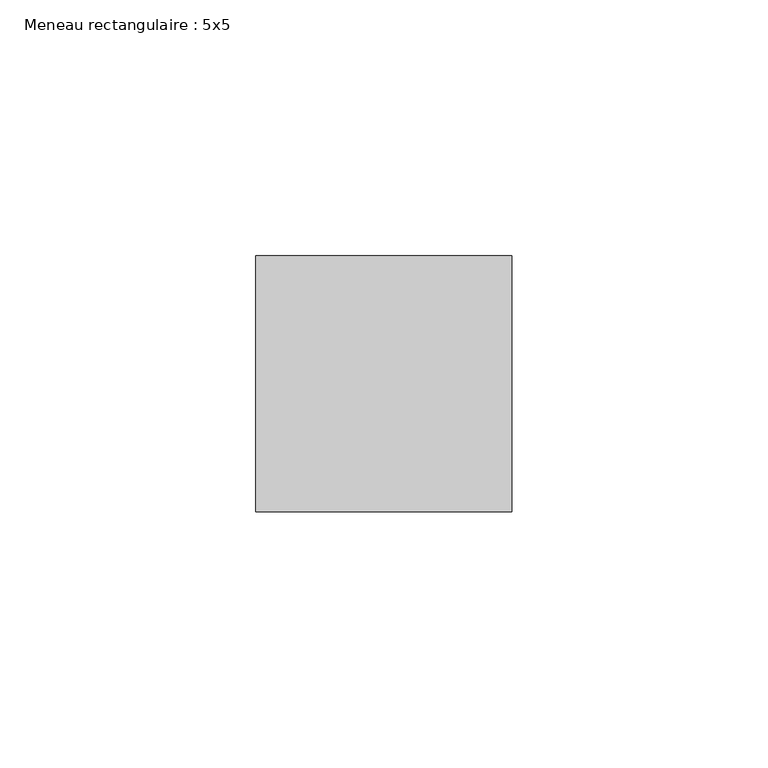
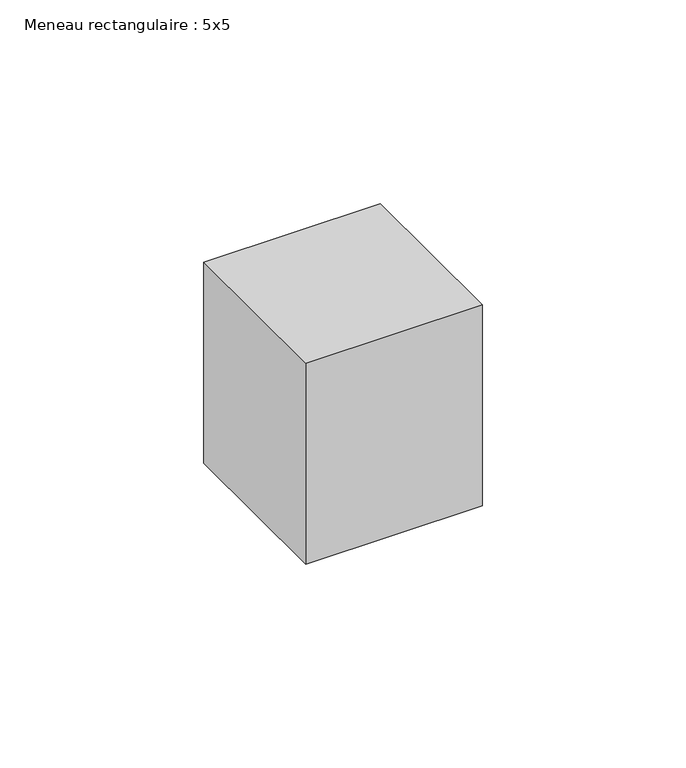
"""IFC4 building model written with IfcOpenShell, lengths in millimetres: member geometry, Meneau rectangulaire : 5x5."""

from ifc_helpers import new_model, si_unit, frame, origin, place, context, project, spatial, polyline, outline, extrude, source, transform, mapped, element, save


def meneau_rectangulaire_5x5_eae172a0(model_context):
    return source(origin(), model_context, "Body", "SweptSolid", [
        extrude(outline(polyline([(0.0, 25.0), (0.0, -25.0), (-50.0, -25.0), (-50.0, 25.0), (0.0, 25.0)])), frame((0.0, 0.0, -60.1663755), z_axis=(0.0, 0.0, 1.0), x_axis=(1.0, 0.0, 0.0)), (0.0, 0.0, 1.0), 60.1663755),
    ])


if __name__ == "__main__":
    model = new_model("IFC4")
    model_context = context("Model", 3, world=origin())
    ifc_project = project(units=[si_unit("LENGTHUNIT", "METRE", prefix="MILLI")], contexts=[model_context])
    site = spatial("IfcSite", under=ifc_project)
    building = spatial("IfcBuilding", under=site)
    placement = place(None, origin())
    meneau_rectangulaire_5x5_shape = meneau_rectangulaire_5x5_eae172a0(model_context)
    element("IfcMember", 1, ObjectType="Meneau rectangulaire : 5x5", at=placement, inside=building, context=model_context, shape_type="MappedRepresentation", body=[
        mapped(meneau_rectangulaire_5x5_shape, transform((0.0, 0.0, 0.0), x_axis=(1.0, 0.0, 0.0), y_axis=(0.0, 1.0, 0.0), z_axis=(0.0, 0.0, 1.0))),
    ])
    save(model, "model.ifc")
